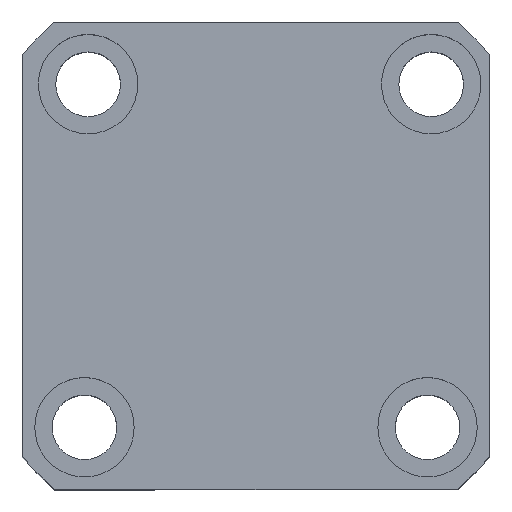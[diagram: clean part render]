
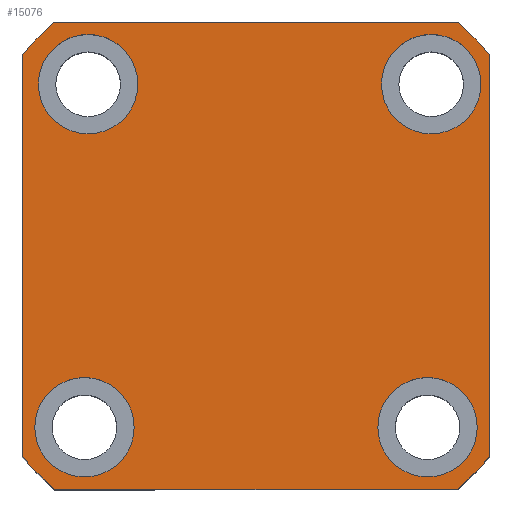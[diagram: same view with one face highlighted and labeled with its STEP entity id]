
A CAD part, top view. The second image highlights one B-rep face of the part: STEP entity #15076.
In plain terms, the highlighted planar face has unit normal (0, 0, 1) as drawn and (0, 0, -1) by its records, which use the part's own axes.
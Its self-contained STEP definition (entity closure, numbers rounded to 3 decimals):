
#19 = EDGE_LOOP ( 'NONE', ( #21179, #14638, #15634, #17480, #232, #9446, #10280, #18653 ) ) ;
#232 = ORIENTED_EDGE ( 'NONE', *, *, #1964, .F. ) ;
#271 = CARTESIAN_POINT ( 'NONE',  ( 34.5, 34.5, 0. ) ) ;
#304 = CIRCLE ( 'NONE', #19592, 10. ) ;
#627 = CIRCLE ( 'NONE', #4648, 10. ) ;
#932 = EDGE_CURVE ( 'NONE', #2071, #18604, #17687, .T. ) ;
#1006 = CARTESIAN_POINT ( 'NONE',  ( 25.23, -34.5, 0. ) ) ;
#1037 = FACE_BOUND ( 'NONE', #9250, .T. ) ;
#1045 = CARTESIAN_POINT ( 'NONE',  ( -40.435, -47., 0. ) ) ;
#1101 = DIRECTION ( 'NONE',  ( 1., 0., 0. ) ) ;
#1155 = DIRECTION ( 'NONE',  ( 0., 0., 1. ) ) ;
#1266 = DIRECTION ( 'NONE',  ( 0., 0., -1. ) ) ;
#1771 = DIRECTION ( 'NONE',  ( 1., 0., 0. ) ) ;
#1859 = CARTESIAN_POINT ( 'NONE',  ( 40.435, 47., 0. ) ) ;
#1908 = CARTESIAN_POINT ( 'NONE',  ( 35.23, -34.5, 0. ) ) ;
#1964 = EDGE_CURVE ( 'NONE', #19950, #14222, #20938, .T. ) ;
#2010 = DIRECTION ( 'NONE',  ( -1., 0., 0. ) ) ;
#2071 = VERTEX_POINT ( 'NONE', #7950 ) ;
#2124 = CIRCLE ( 'NONE', #4460, 10. ) ;
#2200 = EDGE_LOOP ( 'NONE', ( #5735, #6825 ) ) ;
#2255 = EDGE_CURVE ( 'NONE', #17620, #14356, #304, .T. ) ;
#2312 = CARTESIAN_POINT ( 'NONE',  ( 40.435, -47., 0. ) ) ;
#2485 = ORIENTED_EDGE ( 'NONE', *, *, #8827, .F. ) ;
#2584 = AXIS2_PLACEMENT_3D ( 'NONE', #21877, #11495, #1101 ) ;
#3233 = CARTESIAN_POINT ( 'NONE',  ( -47., -40.435, 0. ) ) ;
#3376 = CARTESIAN_POINT ( 'NONE',  ( 47., 40.435, 0. ) ) ;
#3645 = DIRECTION ( 'NONE',  ( -1., 0., 0. ) ) ;
#3858 = EDGE_CURVE ( 'NONE', #12825, #9442, #10149, .T. ) ;
#4026 = CARTESIAN_POINT ( 'NONE',  ( -40.435, 47., 0. ) ) ;
#4460 = AXIS2_PLACEMENT_3D ( 'NONE', #11661, #1266, #13381 ) ;
#4518 = LINE ( 'NONE', #8398, #22427 ) ;
#4568 = CARTESIAN_POINT ( 'NONE',  ( -33.77, -34.5, 0. ) ) ;
#4648 = AXIS2_PLACEMENT_3D ( 'NONE', #6877, #18992, #8628 ) ;
#4761 = DIRECTION ( 'NONE',  ( 0., 0., -1. ) ) ;
#4787 = DIRECTION ( 'NONE',  ( -1., 0., 0. ) ) ;
#4991 = EDGE_CURVE ( 'NONE', #5138, #6468, #627, .T. ) ;
#5138 = VERTEX_POINT ( 'NONE', #17401 ) ;
#5147 = VERTEX_POINT ( 'NONE', #1859 ) ;
#5230 = CIRCLE ( 'NONE', #7994, 62. ) ;
#5439 = VECTOR ( 'NONE', #7078, 1000. ) ;
#5662 = FACE_BOUND ( 'NONE', #8459, .T. ) ;
#5735 = ORIENTED_EDGE ( 'NONE', *, *, #16626, .F. ) ;
#5876 = CIRCLE ( 'NONE', #2584, 62. ) ;
#6294 = EDGE_CURVE ( 'NONE', #14356, #17620, #19599, .T. ) ;
#6394 = DIRECTION ( 'NONE',  ( 0., 0., -1. ) ) ;
#6468 = VERTEX_POINT ( 'NONE', #16459 ) ;
#6481 = EDGE_CURVE ( 'NONE', #14222, #14766, #18515, .T. ) ;
#6621 = EDGE_CURVE ( 'NONE', #14766, #11893, #5230, .T. ) ;
#6825 = ORIENTED_EDGE ( 'NONE', *, *, #932, .F. ) ;
#6877 = CARTESIAN_POINT ( 'NONE',  ( -34.5, 34.5, 0. ) ) ;
#7078 = DIRECTION ( 'NONE',  ( -1., 0., 0. ) ) ;
#7407 = DIRECTION ( 'NONE',  ( -1., 0., 0. ) ) ;
#7690 = DIRECTION ( 'NONE',  ( 0., 0., -1. ) ) ;
#7792 = CARTESIAN_POINT ( 'NONE',  ( 35.23, -34.5, 0. ) ) ;
#7950 = CARTESIAN_POINT ( 'NONE',  ( -23.77, -34.5, 0. ) ) ;
#7994 = AXIS2_PLACEMENT_3D ( 'NONE', #18459, #8061, #20193 ) ;
#8061 = DIRECTION ( 'NONE',  ( 0., 0., 1. ) ) ;
#8172 = AXIS2_PLACEMENT_3D ( 'NONE', #271, #12389, #2010 ) ;
#8332 = DIRECTION ( 'NONE',  ( 0., 0., -1. ) ) ;
#8398 = CARTESIAN_POINT ( 'NONE',  ( 47., 47., 0. ) ) ;
#8459 = EDGE_LOOP ( 'NONE', ( #17395, #13300 ) ) ;
#8628 = DIRECTION ( 'NONE',  ( -1., 0., 0. ) ) ;
#8688 = VERTEX_POINT ( 'NONE', #3376 ) ;
#8693 = PLANE ( 'NONE',  #13864 ) ;
#8827 = EDGE_CURVE ( 'NONE', #9442, #12825, #12782, .T. ) ;
#9250 = EDGE_LOOP ( 'NONE', ( #14664, #2485 ) ) ;
#9310 = VECTOR ( 'NONE', #19972, 1000. ) ;
#9442 = VERTEX_POINT ( 'NONE', #20874 ) ;
#9446 = ORIENTED_EDGE ( 'NONE', *, *, #15305, .F. ) ;
#9646 = AXIS2_PLACEMENT_3D ( 'NONE', #16753, #6394, #18527 ) ;
#9678 = EDGE_CURVE ( 'NONE', #6468, #5138, #16552, .T. ) ;
#10034 = EDGE_LOOP ( 'NONE', ( #16559, #13049 ) ) ;
#10149 = CIRCLE ( 'NONE', #14778, 10. ) ;
#10154 = DIRECTION ( 'NONE',  ( 0., 1., 0. ) ) ;
#10280 = ORIENTED_EDGE ( 'NONE', *, *, #21855, .F. ) ;
#10292 = FACE_BOUND ( 'NONE', #2200, .T. ) ;
#10349 = CARTESIAN_POINT ( 'NONE',  ( -47., 47., 0. ) ) ;
#10396 = CARTESIAN_POINT ( 'NONE',  ( -43.77, -34.5, 0. ) ) ;
#10616 = LINE ( 'NONE', #10349, #5439 ) ;
#10879 = CARTESIAN_POINT ( 'NONE',  ( -47., 47., 0. ) ) ;
#11013 = EDGE_CURVE ( 'NONE', #5147, #22393, #10616, .T. ) ;
#11457 = AXIS2_PLACEMENT_3D ( 'NONE', #15672, #15566, #15472 ) ;
#11486 = VERTEX_POINT ( 'NONE', #14824 ) ;
#11495 = DIRECTION ( 'NONE',  ( 0., 0., 1. ) ) ;
#11549 = CARTESIAN_POINT ( 'NONE',  ( 0., 0., 0. ) ) ;
#11661 = CARTESIAN_POINT ( 'NONE',  ( -33.77, -34.5, 0. ) ) ;
#11893 = VERTEX_POINT ( 'NONE', #12555 ) ;
#12151 = DIRECTION ( 'NONE',  ( 0., 0., 1. ) ) ;
#12389 = DIRECTION ( 'NONE',  ( 0., 0., -1. ) ) ;
#12555 = CARTESIAN_POINT ( 'NONE',  ( 47., -40.435, 0. ) ) ;
#12782 = CIRCLE ( 'NONE', #8172, 10. ) ;
#12825 = VERTEX_POINT ( 'NONE', #16360 ) ;
#12989 = CARTESIAN_POINT ( 'NONE',  ( -47., -47., 0. ) ) ;
#13049 = ORIENTED_EDGE ( 'NONE', *, *, #4991, .F. ) ;
#13225 = VECTOR ( 'NONE', #21257, 1000. ) ;
#13275 = DIRECTION ( 'NONE',  ( 1., 0., 0. ) ) ;
#13300 = ORIENTED_EDGE ( 'NONE', *, *, #6294, .F. ) ;
#13381 = DIRECTION ( 'NONE',  ( -1., 0., 0. ) ) ;
#13523 = CARTESIAN_POINT ( 'NONE',  ( 45.23, -34.5, 0. ) ) ;
#13864 = AXIS2_PLACEMENT_3D ( 'NONE', #17307, #12151, #1771 ) ;
#14006 = DIRECTION ( 'NONE',  ( 0., 0., -1. ) ) ;
#14222 = VERTEX_POINT ( 'NONE', #1045 ) ;
#14356 = VERTEX_POINT ( 'NONE', #13523 ) ;
#14638 = ORIENTED_EDGE ( 'NONE', *, *, #19861, .F. ) ;
#14664 = ORIENTED_EDGE ( 'NONE', *, *, #3858, .F. ) ;
#14766 = VERTEX_POINT ( 'NONE', #2312 ) ;
#14778 = AXIS2_PLACEMENT_3D ( 'NONE', #18721, #8332, #20454 ) ;
#14824 = CARTESIAN_POINT ( 'NONE',  ( -47., 40.435, 0. ) ) ;
#15040 = CIRCLE ( 'NONE', #17925, 62. ) ;
#15076 = ADVANCED_FACE ( 'NONE', ( #5662, #10292, #19486, #1037, #18945 ), #8693, .F. ) ;
#15305 = EDGE_CURVE ( 'NONE', #11486, #19950, #17857, .T. ) ;
#15472 = DIRECTION ( 'NONE',  ( 1., 0., 0. ) ) ;
#15566 = DIRECTION ( 'NONE',  ( 0., 0., 1. ) ) ;
#15634 = ORIENTED_EDGE ( 'NONE', *, *, #6621, .F. ) ;
#15672 = CARTESIAN_POINT ( 'NONE',  ( 0., 0., 0. ) ) ;
#16360 = CARTESIAN_POINT ( 'NONE',  ( 24.5, 34.5, 0. ) ) ;
#16459 = CARTESIAN_POINT ( 'NONE',  ( -44.5, 34.5, 0. ) ) ;
#16552 = CIRCLE ( 'NONE', #9646, 10. ) ;
#16559 = ORIENTED_EDGE ( 'NONE', *, *, #9678, .F. ) ;
#16626 = EDGE_CURVE ( 'NONE', #18604, #2071, #2124, .T. ) ;
#16753 = CARTESIAN_POINT ( 'NONE',  ( -34.5, 34.5, 0. ) ) ;
#17307 = CARTESIAN_POINT ( 'NONE',  ( 0., 0., 0. ) ) ;
#17395 = ORIENTED_EDGE ( 'NONE', *, *, #2255, .F. ) ;
#17401 = CARTESIAN_POINT ( 'NONE',  ( -24.5, 34.5, 0. ) ) ;
#17480 = ORIENTED_EDGE ( 'NONE', *, *, #6481, .F. ) ;
#17620 = VERTEX_POINT ( 'NONE', #1006 ) ;
#17687 = CIRCLE ( 'NONE', #20447, 10. ) ;
#17857 = LINE ( 'NONE', #10879, #13225 ) ;
#17925 = AXIS2_PLACEMENT_3D ( 'NONE', #11549, #1155, #13275 ) ;
#18459 = CARTESIAN_POINT ( 'NONE',  ( 0., 0., 0. ) ) ;
#18515 = LINE ( 'NONE', #12989, #9310 ) ;
#18527 = DIRECTION ( 'NONE',  ( -1., 0., 0. ) ) ;
#18604 = VERTEX_POINT ( 'NONE', #10396 ) ;
#18653 = ORIENTED_EDGE ( 'NONE', *, *, #11013, .F. ) ;
#18721 = CARTESIAN_POINT ( 'NONE',  ( 34.5, 34.5, 0. ) ) ;
#18945 = FACE_OUTER_BOUND ( 'NONE', #19, .T. ) ;
#18992 = DIRECTION ( 'NONE',  ( 0., 0., -1. ) ) ;
#19486 = FACE_BOUND ( 'NONE', #10034, .T. ) ;
#19592 = AXIS2_PLACEMENT_3D ( 'NONE', #7792, #7690, #7407 ) ;
#19599 = CIRCLE ( 'NONE', #22383, 10. ) ;
#19861 = EDGE_CURVE ( 'NONE', #11893, #8688, #4518, .T. ) ;
#19950 = VERTEX_POINT ( 'NONE', #3233 ) ;
#19972 = DIRECTION ( 'NONE',  ( 1., 0., 0. ) ) ;
#20193 = DIRECTION ( 'NONE',  ( 1., 0., 0. ) ) ;
#20447 = AXIS2_PLACEMENT_3D ( 'NONE', #4568, #4761, #4787 ) ;
#20454 = DIRECTION ( 'NONE',  ( -1., 0., 0. ) ) ;
#20557 = EDGE_CURVE ( 'NONE', #8688, #5147, #5876, .T. ) ;
#20874 = CARTESIAN_POINT ( 'NONE',  ( 44.5, 34.5, 0. ) ) ;
#20938 = CIRCLE ( 'NONE', #11457, 62. ) ;
#21179 = ORIENTED_EDGE ( 'NONE', *, *, #20557, .F. ) ;
#21257 = DIRECTION ( 'NONE',  ( 0., -1., 0. ) ) ;
#21855 = EDGE_CURVE ( 'NONE', #22393, #11486, #15040, .T. ) ;
#21877 = CARTESIAN_POINT ( 'NONE',  ( 0., 0., 0. ) ) ;
#22383 = AXIS2_PLACEMENT_3D ( 'NONE', #1908, #14006, #3645 ) ;
#22393 = VERTEX_POINT ( 'NONE', #4026 ) ;
#22427 = VECTOR ( 'NONE', #10154, 1000. ) ;
